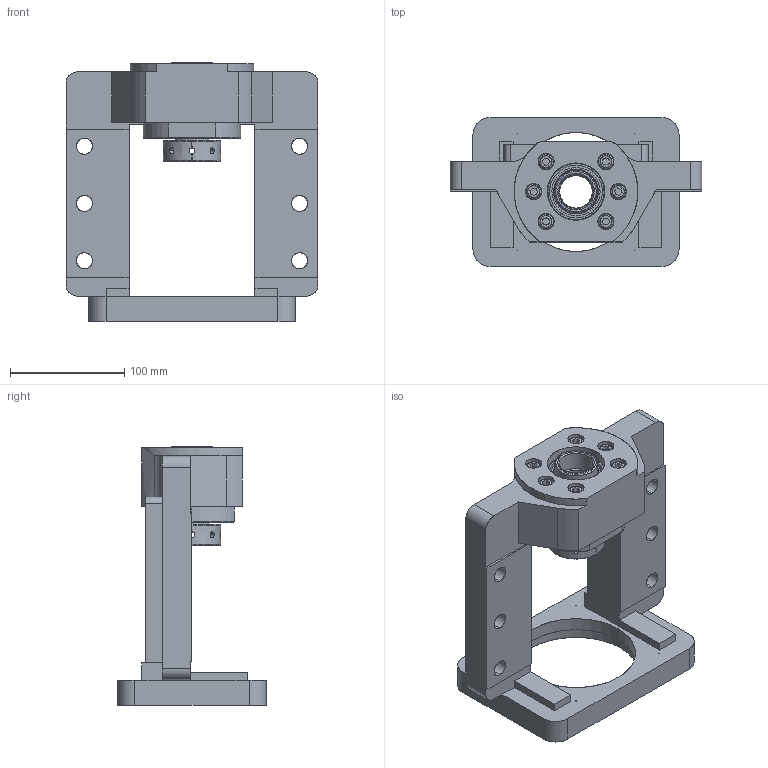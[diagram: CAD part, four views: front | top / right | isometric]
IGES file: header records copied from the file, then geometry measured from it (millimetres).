
Start section: SolidWorks IGES file using analytic representation for surfaces
Global section: file name: C:\Users\044\Desktop\快捷\MBCS30L-G.IGS,1; native system: 5HSolidWorks 2018; preprocessor: SolidWorks 2018; author: 044; date: 241018.135348; units: millimetre
Bounding box: 220 x 130 x 226 mm (x, y, z)
Surface area: 199749.5 mm2 (no closed solid volume)
Topology: 0 solids, 0 shells, 343 faces, 6149 edges, 6141 vertices
Faces by surface type: revolution 187, bspline 156
